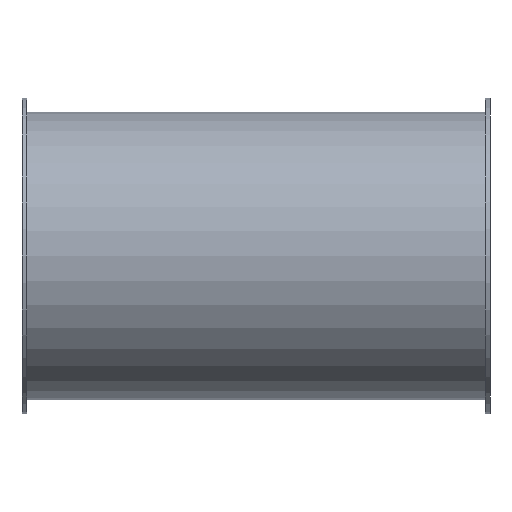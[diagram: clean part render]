
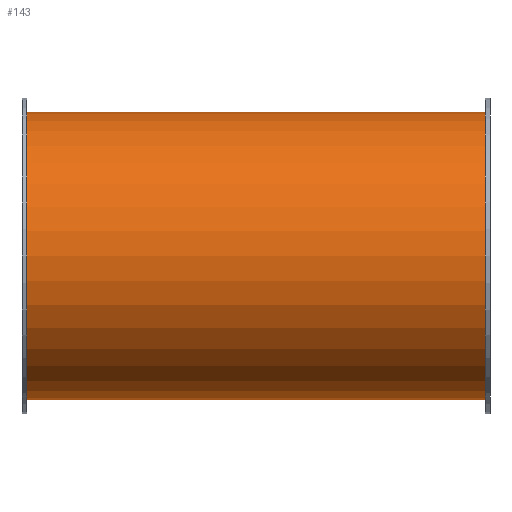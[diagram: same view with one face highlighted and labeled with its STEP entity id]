
A CAD part, front view. The second image highlights one B-rep face of the part: STEP entity #143.
In plain terms, the highlighted cylindrical face has radius 61.5 mm (diameter 123 mm), a full revolution.
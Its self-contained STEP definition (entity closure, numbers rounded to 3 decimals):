
#112=CARTESIAN_POINT('',(166.119,2.817,0.0));
#113=VERTEX_POINT('',#112);
#114=CARTESIAN_POINT('',(166.119,64.317,0.0));
#115=DIRECTION('',(-1.0,0.0,0.0));
#116=DIRECTION('',(0.0,-1.0,0.0));
#117=AXIS2_PLACEMENT_3D('',#114,#115,#116);
#118=CIRCLE('',#117,61.5);
#119=EDGE_CURVE('',#113,#113,#118,.T.);
#124=CARTESIAN_POINT('',(68.119,64.317,0.0));
#125=DIRECTION('',(-1.0,0.,0.0));
#126=DIRECTION('',(0.0,-1.0,0.0));
#127=AXIS2_PLACEMENT_3D('',#124,#125,#126);
#128=CYLINDRICAL_SURFACE('',#127,61.5);
#129=CARTESIAN_POINT('',(-29.881,2.817,0.0));
#130=VERTEX_POINT('',#129);
#131=CARTESIAN_POINT('',(-29.881,64.317,0.0));
#132=DIRECTION('',(-1.0,0.0,0.0));
#133=DIRECTION('',(0.0,-1.0,0.0));
#134=AXIS2_PLACEMENT_3D('',#131,#132,#133);
#135=CIRCLE('',#134,61.5);
#136=EDGE_CURVE('',#130,#130,#135,.T.);
#137=ORIENTED_EDGE('',*,*,#136,.F.);
#138=EDGE_LOOP('',(#137));
#139=FACE_OUTER_BOUND('',#138,.T.);
#140=ORIENTED_EDGE('',*,*,#119,.T.);
#141=EDGE_LOOP('',(#140));
#142=FACE_BOUND('',#141,.T.);
#143=ADVANCED_FACE('',(#139,#142),#128,.T.);
